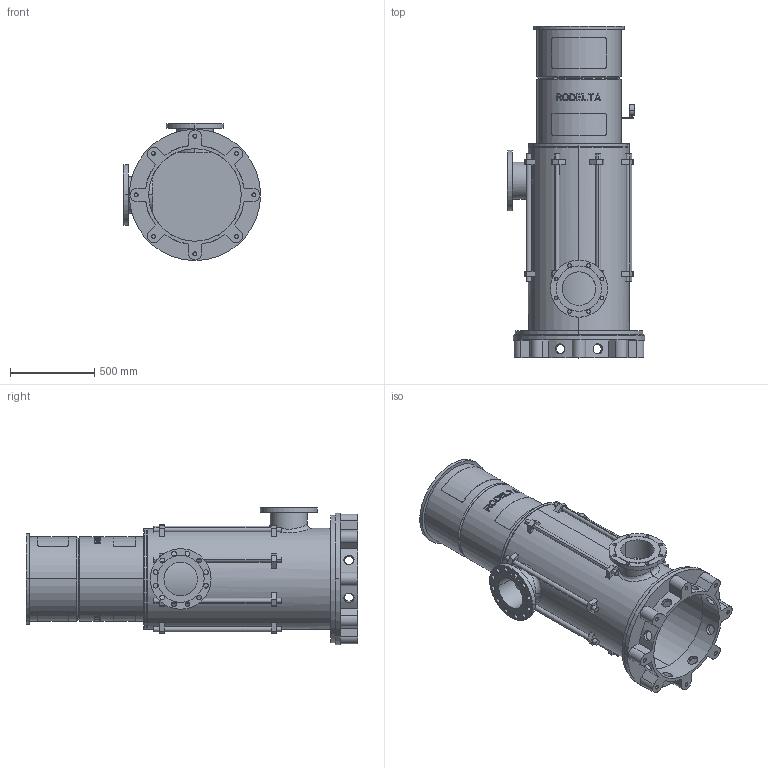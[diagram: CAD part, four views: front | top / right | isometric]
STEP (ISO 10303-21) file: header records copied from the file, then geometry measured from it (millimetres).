
FILE_DESCRIPTION((''),'2;1');
FILE_NAME('LS8_2TR_0GR_PN25','2025-10-24T13:21:52',('Lyritlocal'),(''),'CREO PARAMETRIC BY PTC INC, 2022014','CREO PARAMETRIC BY PTC INC, 2022014','');
FILE_SCHEMA(('CONFIG_CONTROL_DESIGN'));
Length unit declared in the file: millimetre
Products named in the file (1): LS8_2TR_0GR_PN25
Bounding box: 815 x 1972 x 815 mm (x, y, z)
Volume: 71197557.1 mm3; surface area: 9782472.1 mm2
Topology: 3 solids, 11 shells, 723 faces, 1880 edges, 1246 vertices
Faces by surface type: plane 440, cylinder 267, cone 12, bspline 4
Entity records: 23699 total; most frequent: CARTESIAN_POINT 6010, ORIENTED_EDGE 3728, DIRECTION 3490, EDGE_CURVE 1880, AXIS2_PLACEMENT_3D 1302, VERTEX_POINT 1246, VECTOR 886, LINE 886
